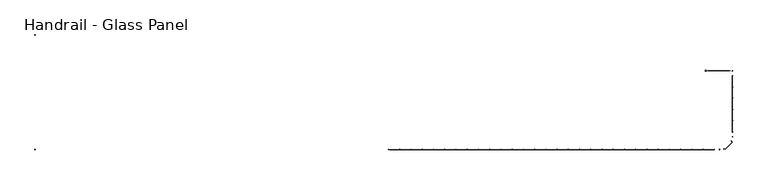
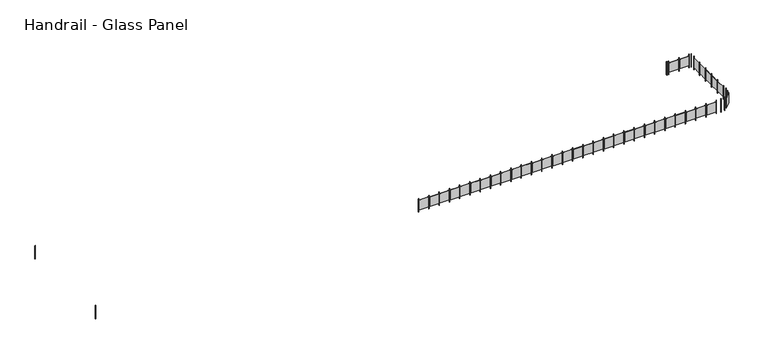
"""IFC4 building model written with IfcOpenShell, lengths in millimetres: railing geometry, Handrail - Glass Panel."""

from ifc_helpers import new_model, si_unit, point, frame, frame_2d, origin, place, context, project, spatial, polyline, circle_curve, trimmed, segment, composite_curve, outline, extrude, source, transform, mapped, element, save


def handrail_glass_panel_71ff9b3e(model_context):
    return source(origin(), model_context, "Body", "SweptSolid", [
        extrude(outline(polyline([(11509.6384101, -15937.6898653), (11509.6384101, -15956.7398653), (11490.5884101, -15956.7398653), (11490.5884101, -15937.6898653), (11509.6384101, -15937.6898653)])), frame((0.0, 0.0, 11850.0), z_axis=(0.0, 0.0, 1.0), x_axis=(1.0, 0.0, 0.0)), (0.0, 0.0, 1.0), 863.6),
        extrude(outline(polyline([(12097.0134101, -15953.5648653), (11538.2134101, -15953.5648653), (11538.2134101, -15947.2148653), (12097.0134101, -15947.2148653), (12097.0134101, -15953.5648653)])), frame((0.0, 0.0, 11977.0), z_axis=(0.0, 0.0, 1.0), x_axis=(1.0, 0.0, 0.0)), (0.0, 0.0, 1.0), 635.0),
        extrude(outline(polyline([(12144.6384101, -15937.6898653), (12144.6384101, -15956.7398653), (12125.5884101, -15956.7398653), (12125.5884101, -15937.6898653), (12144.6384101, -15937.6898653)])), frame((0.0, 0.0, 11850.0), z_axis=(0.0, 0.0, 1.0), x_axis=(1.0, 0.0, 0.0)), (0.0, 0.0, 1.0), 863.6),
        extrude(outline(polyline([(12732.0134101, -15953.5648653), (12173.2134101, -15953.5648653), (12173.2134101, -15947.2148653), (12732.0134101, -15947.2148653), (12732.0134101, -15953.5648653)])), frame((0.0, 0.0, 11977.0), z_axis=(0.0, 0.0, 1.0), x_axis=(1.0, 0.0, 0.0)), (0.0, 0.0, 1.0), 635.0),
        extrude(outline(polyline([(12779.6384101, -15937.6898653), (12779.6384101, -15956.7398653), (12760.5884101, -15956.7398653), (12760.5884101, -15937.6898653), (12779.6384101, -15937.6898653)])), frame((0.0, 0.0, 11850.0), z_axis=(0.0, 0.0, 1.0), x_axis=(1.0, 0.0, 0.0)), (0.0, 0.0, 1.0), 863.6),
        extrude(outline(polyline([(13367.0134101, -15953.5648653), (12808.2134101, -15953.5648653), (12808.2134101, -15947.2148653), (13367.0134101, -15947.2148653), (13367.0134101, -15953.5648653)])), frame((0.0, 0.0, 11977.0), z_axis=(0.0, 0.0, 1.0), x_axis=(1.0, 0.0, 0.0)), (0.0, 0.0, 1.0), 635.0),
        extrude(outline(polyline([(13414.6384101, -15937.6898653), (13414.6384101, -15956.7398653), (13395.5884101, -15956.7398653), (13395.5884101, -15937.6898653), (13414.6384101, -15937.6898653)])), frame((0.0, 0.0, 11850.0), z_axis=(0.0, 0.0, 1.0), x_axis=(1.0, 0.0, 0.0)), (0.0, 0.0, 1.0), 863.6),
        extrude(outline(polyline([(14002.0134101, -15953.5648653), (13443.2134101, -15953.5648653), (13443.2134101, -15947.2148653), (14002.0134101, -15947.2148653), (14002.0134101, -15953.5648653)])), frame((0.0, 0.0, 11977.0), z_axis=(0.0, 0.0, 1.0), x_axis=(1.0, 0.0, 0.0)), (0.0, 0.0, 1.0), 635.0),
        extrude(outline(polyline([(14049.6384101, -15937.6898653), (14049.6384101, -15956.7398653), (14030.5884101, -15956.7398653), (14030.5884101, -15937.6898653), (14049.6384101, -15937.6898653)])), frame((0.0, 0.0, 11850.0), z_axis=(0.0, 0.0, 1.0), x_axis=(1.0, 0.0, 0.0)), (0.0, 0.0, 1.0), 863.6),
        extrude(outline(polyline([(14637.0134101, -15953.5648653), (14078.2134101, -15953.5648653), (14078.2134101, -15947.2148653), (14637.0134101, -15947.2148653), (14637.0134101, -15953.5648653)])), frame((0.0, 0.0, 11977.0), z_axis=(0.0, 0.0, 1.0), x_axis=(1.0, 0.0, 0.0)), (0.0, 0.0, 1.0), 635.0),
        extrude(outline(polyline([(14684.6384101, -15937.6898653), (14684.6384101, -15956.7398653), (14665.5884101, -15956.7398653), (14665.5884101, -15937.6898653), (14684.6384101, -15937.6898653)])), frame((0.0, 0.0, 11850.0), z_axis=(0.0, 0.0, 1.0), x_axis=(1.0, 0.0, 0.0)), (0.0, 0.0, 1.0), 863.6),
        extrude(outline(polyline([(15272.0134101, -15953.5648653), (14713.2134101, -15953.5648653), (14713.2134101, -15947.2148653), (15272.0134101, -15947.2148653), (15272.0134101, -15953.5648653)])), frame((0.0, 0.0, 11977.0), z_axis=(0.0, 0.0, 1.0), x_axis=(1.0, 0.0, 0.0)), (0.0, 0.0, 1.0), 635.0),
        extrude(outline(polyline([(15319.6384101, -15937.6898653), (15319.6384101, -15956.7398653), (15300.5884101, -15956.7398653), (15300.5884101, -15937.6898653), (15319.6384101, -15937.6898653)])), frame((0.0, 0.0, 11850.0), z_axis=(0.0, 0.0, 1.0), x_axis=(1.0, 0.0, 0.0)), (0.0, 0.0, 1.0), 863.6),
        extrude(outline(polyline([(15907.0134101, -15953.5648653), (15348.2134101, -15953.5648653), (15348.2134101, -15947.2148653), (15907.0134101, -15947.2148653), (15907.0134101, -15953.5648653)])), frame((0.0, 0.0, 11977.0), z_axis=(0.0, 0.0, 1.0), x_axis=(1.0, 0.0, 0.0)), (0.0, 0.0, 1.0), 635.0),
        extrude(outline(polyline([(15954.6384101, -15937.6898653), (15954.6384101, -15956.7398653), (15935.5884101, -15956.7398653), (15935.5884101, -15937.6898653), (15954.6384101, -15937.6898653)])), frame((0.0, 0.0, 11850.0), z_axis=(0.0, 0.0, 1.0), x_axis=(1.0, 0.0, 0.0)), (0.0, 0.0, 1.0), 863.6),
        extrude(outline(polyline([(16542.0134101, -15953.5648653), (15983.2134101, -15953.5648653), (15983.2134101, -15947.2148653), (16542.0134101, -15947.2148653), (16542.0134101, -15953.5648653)])), frame((0.0, 0.0, 11977.0), z_axis=(0.0, 0.0, 1.0), x_axis=(1.0, 0.0, 0.0)), (0.0, 0.0, 1.0), 635.0),
        extrude(outline(polyline([(16589.6384101, -15937.6898653), (16589.6384101, -15956.7398653), (16570.5884101, -15956.7398653), (16570.5884101, -15937.6898653), (16589.6384101, -15937.6898653)])), frame((0.0, 0.0, 11850.0), z_axis=(0.0, 0.0, 1.0), x_axis=(1.0, 0.0, 0.0)), (0.0, 0.0, 1.0), 863.6),
        extrude(outline(polyline([(17177.0134101, -15953.5648653), (16618.2134101, -15953.5648653), (16618.2134101, -15947.2148653), (17177.0134101, -15947.2148653), (17177.0134101, -15953.5648653)])), frame((0.0, 0.0, 11977.0), z_axis=(0.0, 0.0, 1.0), x_axis=(1.0, 0.0, 0.0)), (0.0, 0.0, 1.0), 635.0),
        extrude(outline(polyline([(17224.6384101, -15937.6898653), (17224.6384101, -15956.7398653), (17205.5884101, -15956.7398653), (17205.5884101, -15937.6898653), (17224.6384101, -15937.6898653)])), frame((0.0, 0.0, 11850.0), z_axis=(0.0, 0.0, 1.0), x_axis=(1.0, 0.0, 0.0)), (0.0, 0.0, 1.0), 863.6),
        extrude(outline(polyline([(17812.0134101, -15953.5648653), (17253.2134101, -15953.5648653), (17253.2134101, -15947.2148653), (17812.0134101, -15947.2148653), (17812.0134101, -15953.5648653)])), frame((0.0, 0.0, 11977.0), z_axis=(0.0, 0.0, 1.0), x_axis=(1.0, 0.0, 0.0)), (0.0, 0.0, 1.0), 635.0),
        extrude(outline(polyline([(17859.6384101, -15937.6898653), (17859.6384101, -15956.7398653), (17840.5884101, -15956.7398653), (17840.5884101, -15937.6898653), (17859.6384101, -15937.6898653)])), frame((0.0, 0.0, 11850.0), z_axis=(0.0, 0.0, 1.0), x_axis=(1.0, 0.0, 0.0)), (0.0, 0.0, 1.0), 863.6),
        extrude(outline(polyline([(18447.0134101, -15953.5648653), (17888.2134101, -15953.5648653), (17888.2134101, -15947.2148653), (18447.0134101, -15947.2148653), (18447.0134101, -15953.5648653)])), frame((0.0, 0.0, 11977.0), z_axis=(0.0, 0.0, 1.0), x_axis=(1.0, 0.0, 0.0)), (0.0, 0.0, 1.0), 635.0),
        extrude(outline(polyline([(18494.6384101, -15937.6898653), (18494.6384101, -15956.7398653), (18475.5884101, -15956.7398653), (18475.5884101, -15937.6898653), (18494.6384101, -15937.6898653)])), frame((0.0, 0.0, 11850.0), z_axis=(0.0, 0.0, 1.0), x_axis=(1.0, 0.0, 0.0)), (0.0, 0.0, 1.0), 863.6),
        extrude(outline(polyline([(19082.0134101, -15953.5648653), (18523.2134101, -15953.5648653), (18523.2134101, -15947.2148653), (19082.0134101, -15947.2148653), (19082.0134101, -15953.5648653)])), frame((0.0, 0.0, 11977.0), z_axis=(0.0, 0.0, 1.0), x_axis=(1.0, 0.0, 0.0)), (0.0, 0.0, 1.0), 635.0),
        extrude(outline(polyline([(19129.6384101, -15937.6898653), (19129.6384101, -15956.7398653), (19110.5884101, -15956.7398653), (19110.5884101, -15937.6898653), (19129.6384101, -15937.6898653)])), frame((0.0, 0.0, 11850.0), z_axis=(0.0, 0.0, 1.0), x_axis=(1.0, 0.0, 0.0)), (0.0, 0.0, 1.0), 863.6),
        extrude(outline(polyline([(19717.0134101, -15953.5648653), (19158.2134101, -15953.5648653), (19158.2134101, -15947.2148653), (19717.0134101, -15947.2148653), (19717.0134101, -15953.5648653)])), frame((0.0, 0.0, 11977.0), z_axis=(0.0, 0.0, 1.0), x_axis=(1.0, 0.0, 0.0)), (0.0, 0.0, 1.0), 635.0),
        extrude(outline(polyline([(19764.6384101, -15937.6898653), (19764.6384101, -15956.7398653), (19745.5884101, -15956.7398653), (19745.5884101, -15937.6898653), (19764.6384101, -15937.6898653)])), frame((0.0, 0.0, 11850.0), z_axis=(0.0, 0.0, 1.0), x_axis=(1.0, 0.0, 0.0)), (0.0, 0.0, 1.0), 863.6),
        extrude(outline(polyline([(20352.0134101, -15953.5648653), (19793.2134101, -15953.5648653), (19793.2134101, -15947.2148653), (20352.0134101, -15947.2148653), (20352.0134101, -15953.5648653)])), frame((0.0, 0.0, 11977.0), z_axis=(0.0, 0.0, 1.0), x_axis=(1.0, 0.0, 0.0)), (0.0, 0.0, 1.0), 635.0),
        extrude(outline(polyline([(20399.6384101, -15937.6898653), (20399.6384101, -15956.7398653), (20380.5884101, -15956.7398653), (20380.5884101, -15937.6898653), (20399.6384101, -15937.6898653)])), frame((0.0, 0.0, 11850.0), z_axis=(0.0, 0.0, 1.0), x_axis=(1.0, 0.0, 0.0)), (0.0, 0.0, 1.0), 863.6),
        extrude(outline(polyline([(20987.0134101, -15953.5648653), (20428.2134101, -15953.5648653), (20428.2134101, -15947.2148653), (20987.0134101, -15947.2148653), (20987.0134101, -15953.5648653)])), frame((0.0, 0.0, 11977.0), z_axis=(0.0, 0.0, 1.0), x_axis=(1.0, 0.0, 0.0)), (0.0, 0.0, 1.0), 635.0),
        extrude(outline(polyline([(21034.6384101, -15937.6898653), (21034.6384101, -15956.7398653), (21015.5884101, -15956.7398653), (21015.5884101, -15937.6898653), (21034.6384101, -15937.6898653)])), frame((0.0, 0.0, 11850.0), z_axis=(0.0, 0.0, 1.0), x_axis=(1.0, 0.0, 0.0)), (0.0, 0.0, 1.0), 863.6),
        extrude(outline(polyline([(21622.0134101, -15953.5648653), (21063.2134101, -15953.5648653), (21063.2134101, -15947.2148653), (21622.0134101, -15947.2148653), (21622.0134101, -15953.5648653)])), frame((0.0, 0.0, 11977.0), z_axis=(0.0, 0.0, 1.0), x_axis=(1.0, 0.0, 0.0)), (0.0, 0.0, 1.0), 635.0),
        extrude(outline(polyline([(21669.6384101, -15937.6898653), (21669.6384101, -15956.7398653), (21650.5884101, -15956.7398653), (21650.5884101, -15937.6898653), (21669.6384101, -15937.6898653)])), frame((0.0, 0.0, 11850.0), z_axis=(0.0, 0.0, 1.0), x_axis=(1.0, 0.0, 0.0)), (0.0, 0.0, 1.0), 863.6),
        extrude(outline(polyline([(22257.0134101, -15953.5648653), (21698.2134101, -15953.5648653), (21698.2134101, -15947.2148653), (22257.0134101, -15947.2148653), (22257.0134101, -15953.5648653)])), frame((0.0, 0.0, 11977.0), z_axis=(0.0, 0.0, 1.0), x_axis=(1.0, 0.0, 0.0)), (0.0, 0.0, 1.0), 635.0),
        extrude(outline(polyline([(22304.6384101, -15937.6898653), (22304.6384101, -15956.7398653), (22285.5884101, -15956.7398653), (22285.5884101, -15937.6898653), (22304.6384101, -15937.6898653)])), frame((0.0, 0.0, 11850.0), z_axis=(0.0, 0.0, 1.0), x_axis=(1.0, 0.0, 0.0)), (0.0, 0.0, 1.0), 863.6),
        extrude(outline(polyline([(22892.0134101, -15953.5648653), (22333.2134101, -15953.5648653), (22333.2134101, -15947.2148653), (22892.0134101, -15947.2148653), (22892.0134101, -15953.5648653)])), frame((0.0, 0.0, 11977.0), z_axis=(0.0, 0.0, 1.0), x_axis=(1.0, 0.0, 0.0)), (0.0, 0.0, 1.0), 635.0),
        extrude(outline(polyline([(22939.6384101, -15937.6898653), (22939.6384101, -15956.7398653), (22920.5884101, -15956.7398653), (22920.5884101, -15937.6898653), (22939.6384101, -15937.6898653)])), frame((0.0, 0.0, 11850.0), z_axis=(0.0, 0.0, 1.0), x_axis=(1.0, 0.0, 0.0)), (0.0, 0.0, 1.0), 863.6),
        extrude(outline(polyline([(23527.0134101, -15953.5648653), (22968.2134101, -15953.5648653), (22968.2134101, -15947.2148653), (23527.0134101, -15947.2148653), (23527.0134101, -15953.5648653)])), frame((0.0, 0.0, 11977.0), z_axis=(0.0, 0.0, 1.0), x_axis=(1.0, 0.0, 0.0)), (0.0, 0.0, 1.0), 635.0),
        extrude(outline(polyline([(23574.6384101, -15937.6898653), (23574.6384101, -15956.7398653), (23555.5884101, -15956.7398653), (23555.5884101, -15937.6898653), (23574.6384101, -15937.6898653)])), frame((0.0, 0.0, 11850.0), z_axis=(0.0, 0.0, 1.0), x_axis=(1.0, 0.0, 0.0)), (0.0, 0.0, 1.0), 863.6),
        extrude(outline(polyline([(24162.0134101, -15953.5648653), (23603.2134101, -15953.5648653), (23603.2134101, -15947.2148653), (24162.0134101, -15947.2148653), (24162.0134101, -15953.5648653)])), frame((0.0, 0.0, 11977.0), z_axis=(0.0, 0.0, 1.0), x_axis=(1.0, 0.0, 0.0)), (0.0, 0.0, 1.0), 635.0),
        extrude(outline(polyline([(24209.6384101, -15937.6898653), (24209.6384101, -15956.7398653), (24190.5884101, -15956.7398653), (24190.5884101, -15937.6898653), (24209.6384101, -15937.6898653)])), frame((0.0, 0.0, 11850.0), z_axis=(0.0, 0.0, 1.0), x_axis=(1.0, 0.0, 0.0)), (0.0, 0.0, 1.0), 863.6),
        extrude(outline(polyline([(24797.0134101, -15953.5648653), (24238.2134101, -15953.5648653), (24238.2134101, -15947.2148653), (24797.0134101, -15947.2148653), (24797.0134101, -15953.5648653)])), frame((0.0, 0.0, 11977.0), z_axis=(0.0, 0.0, 1.0), x_axis=(1.0, 0.0, 0.0)), (0.0, 0.0, 1.0), 635.0),
        extrude(outline(polyline([(24844.6384101, -15937.6898653), (24844.6384101, -15956.7398653), (24825.5884101, -15956.7398653), (24825.5884101, -15937.6898653), (24844.6384101, -15937.6898653)])), frame((0.0, 0.0, 11850.0), z_axis=(0.0, 0.0, 1.0), x_axis=(1.0, 0.0, 0.0)), (0.0, 0.0, 1.0), 863.6),
        extrude(outline(polyline([(25432.0134101, -15953.5648653), (24873.2134101, -15953.5648653), (24873.2134101, -15947.2148653), (25432.0134101, -15947.2148653), (25432.0134101, -15953.5648653)])), frame((0.0, 0.0, 11977.0), z_axis=(0.0, 0.0, 1.0), x_axis=(1.0, 0.0, 0.0)), (0.0, 0.0, 1.0), 635.0),
        extrude(outline(polyline([(25479.6384101, -15937.6898653), (25479.6384101, -15956.7398653), (25460.5884101, -15956.7398653), (25460.5884101, -15937.6898653), (25479.6384101, -15937.6898653)])), frame((0.0, 0.0, 11850.0), z_axis=(0.0, 0.0, 1.0), x_axis=(1.0, 0.0, 0.0)), (0.0, 0.0, 1.0), 863.6),
        extrude(outline(polyline([(26067.0134101, -15953.5648653), (25508.2134101, -15953.5648653), (25508.2134101, -15947.2148653), (26067.0134101, -15947.2148653), (26067.0134101, -15953.5648653)])), frame((0.0, 0.0, 11977.0), z_axis=(0.0, 0.0, 1.0), x_axis=(1.0, 0.0, 0.0)), (0.0, 0.0, 1.0), 635.0),
        extrude(outline(polyline([(26114.6384101, -15937.6898653), (26114.6384101, -15956.7398653), (26095.5884101, -15956.7398653), (26095.5884101, -15937.6898653), (26114.6384101, -15937.6898653)])), frame((0.0, 0.0, 11850.0), z_axis=(0.0, 0.0, 1.0), x_axis=(1.0, 0.0, 0.0)), (0.0, 0.0, 1.0), 863.6),
        extrude(outline(polyline([(26702.0134101, -15953.5648653), (26143.2134101, -15953.5648653), (26143.2134101, -15947.2148653), (26702.0134101, -15947.2148653), (26702.0134101, -15953.5648653)])), frame((0.0, 0.0, 11977.0), z_axis=(0.0, 0.0, 1.0), x_axis=(1.0, 0.0, 0.0)), (0.0, 0.0, 1.0), 635.0),
        extrude(outline(polyline([(26749.6384101, -15937.6898653), (26749.6384101, -15956.7398653), (26730.5884101, -15956.7398653), (26730.5884101, -15937.6898653), (26749.6384101, -15937.6898653)])), frame((0.0, 0.0, 11850.0), z_axis=(0.0, 0.0, 1.0), x_axis=(1.0, 0.0, 0.0)), (0.0, 0.0, 1.0), 863.6),
        extrude(outline(polyline([(27337.0134101, -15953.5648653), (26778.2134101, -15953.5648653), (26778.2134101, -15947.2148653), (27337.0134101, -15947.2148653), (27337.0134101, -15953.5648653)])), frame((0.0, 0.0, 11977.0), z_axis=(0.0, 0.0, 1.0), x_axis=(1.0, 0.0, 0.0)), (0.0, 0.0, 1.0), 635.0),
        extrude(outline(polyline([(27384.6384101, -15937.6898653), (27384.6384101, -15956.7398653), (27365.5884101, -15956.7398653), (27365.5884101, -15937.6898653), (27384.6384101, -15937.6898653)])), frame((0.0, 0.0, 11850.0), z_axis=(0.0, 0.0, 1.0), x_axis=(1.0, 0.0, 0.0)), (0.0, 0.0, 1.0), 863.6),
        extrude(outline(polyline([(27972.0134101, -15953.5648653), (27413.2134101, -15953.5648653), (27413.2134101, -15947.2148653), (27972.0134101, -15947.2148653), (27972.0134101, -15953.5648653)])), frame((0.0, 0.0, 11977.0), z_axis=(0.0, 0.0, 1.0), x_axis=(1.0, 0.0, 0.0)), (0.0, 0.0, 1.0), 635.0),
        extrude(outline(polyline([(28019.6384101, -15937.6898653), (28019.6384101, -15956.7398653), (28000.5884101, -15956.7398653), (28000.5884101, -15937.6898653), (28019.6384101, -15937.6898653)])), frame((0.0, 0.0, 11850.0), z_axis=(0.0, 0.0, 1.0), x_axis=(1.0, 0.0, 0.0)), (0.0, 0.0, 1.0), 863.6),
        extrude(outline(polyline([(28607.0134101, -15953.5648653), (28048.2134101, -15953.5648653), (28048.2134101, -15947.2148653), (28607.0134101, -15947.2148653), (28607.0134101, -15953.5648653)])), frame((0.0, 0.0, 11977.0), z_axis=(0.0, 0.0, 1.0), x_axis=(1.0, 0.0, 0.0)), (0.0, 0.0, 1.0), 635.0),
        extrude(outline(polyline([(28654.6384101, -15937.6898653), (28654.6384101, -15956.7398653), (28635.5884101, -15956.7398653), (28635.5884101, -15937.6898653), (28654.6384101, -15937.6898653)])), frame((0.0, 0.0, 11850.0), z_axis=(0.0, 0.0, 1.0), x_axis=(1.0, 0.0, 0.0)), (0.0, 0.0, 1.0), 863.6),
        extrude(outline(polyline([(29242.0134101, -15953.5648653), (28683.2134101, -15953.5648653), (28683.2134101, -15947.2148653), (29242.0134101, -15947.2148653), (29242.0134101, -15953.5648653)])), frame((0.0, 0.0, 11977.0), z_axis=(0.0, 0.0, 1.0), x_axis=(1.0, 0.0, 0.0)), (0.0, 0.0, 1.0), 635.0),
        extrude(outline(polyline([(29289.6384101, -15937.6898653), (29289.6384101, -15956.7398653), (29270.5884101, -15956.7398653), (29270.5884101, -15937.6898653), (29289.6384101, -15937.6898653)])), frame((0.0, 0.0, 11850.0), z_axis=(0.0, 0.0, 1.0), x_axis=(1.0, 0.0, 0.0)), (0.0, 0.0, 1.0), 863.6),
        extrude(outline(polyline([(29877.0134101, -15953.5648653), (29318.2134101, -15953.5648653), (29318.2134101, -15947.2148653), (29877.0134101, -15947.2148653), (29877.0134101, -15953.5648653)])), frame((0.0, 0.0, 11977.0), z_axis=(0.0, 0.0, 1.0), x_axis=(1.0, 0.0, 0.0)), (0.0, 0.0, 1.0), 635.0),
        extrude(outline(polyline([(29924.6384101, -15937.6898653), (29924.6384101, -15956.7398653), (29905.5884101, -15956.7398653), (29905.5884101, -15937.6898653), (29924.6384101, -15937.6898653)])), frame((0.0, 0.0, 11850.0), z_axis=(0.0, 0.0, 1.0), x_axis=(1.0, 0.0, 0.0)), (0.0, 0.0, 1.0), 863.6),
        extrude(outline(polyline([(30464.702897, -15891.773289), (30471.1854231, -15909.6863947), (30453.2723175, -15916.1689208), (30446.7897913, -15898.2558152), (30464.702897, -15891.773289)])), frame((0.0, 0.0, 11850.0), z_axis=(0.0, 0.0, 1.0), x_axis=(1.0, 0.0, 0.0)), (0.0, 0.0, 1.0), 863.6),
        extrude(outline(polyline([(30926.8387465, -15541.9089323), (30531.7074772, -15937.0402016), (30527.2173491, -15932.5500736), (30922.3486184, -15537.4188043), (30926.8387465, -15541.9089323)])), frame((0.0, 0.0, 11977.0), z_axis=(0.0, 0.0, 1.0), x_axis=(1.0, 0.0, 0.0)), (0.0, 0.0, 1.0), 635.0),
        extrude(outline(polyline([(30888.05436, -15456.9912465), (30905.9674657, -15463.4737726), (30899.4849395, -15481.3868783), (30881.5718339, -15474.9043521), (30888.05436, -15456.9912465)])), frame((0.0, 0.0, 11850.0), z_axis=(0.0, 0.0, 1.0), x_axis=(1.0, 0.0, 0.0)), (0.0, 0.0, 1.0), 863.6),
        extrude(outline(polyline([(30927.4884101, -14938.2898653), (30946.5384101, -14938.2898653), (30946.5384101, -14957.3398653), (30927.4884101, -14957.3398653), (30927.4884101, -14938.2898653)])), frame((0.0, 0.0, 11850.0), z_axis=(0.0, 0.0, 1.0), x_axis=(1.0, 0.0, 0.0)), (0.0, 0.0, 1.0), 863.6),
        extrude(outline(polyline([(30943.3634101, -14350.9148653), (30943.3634101, -14909.7148653), (30937.0134101, -14909.7148653), (30937.0134101, -14350.9148653), (30943.3634101, -14350.9148653)])), frame((0.0, 0.0, 11977.0), z_axis=(0.0, 0.0, 1.0), x_axis=(1.0, 0.0, 0.0)), (0.0, 0.0, 1.0), 635.0),
        extrude(outline(polyline([(30927.4884101, -14303.2898653), (30946.5384101, -14303.2898653), (30946.5384101, -14322.3398653), (30927.4884101, -14322.3398653), (30927.4884101, -14303.2898653)])), frame((0.0, 0.0, 11850.0), z_axis=(0.0, 0.0, 1.0), x_axis=(1.0, 0.0, 0.0)), (0.0, 0.0, 1.0), 863.6),
        extrude(outline(polyline([(30943.3634101, -13715.9148653), (30943.3634101, -14274.7148653), (30937.0134101, -14274.7148653), (30937.0134101, -13715.9148653), (30943.3634101, -13715.9148653)])), frame((0.0, 0.0, 11977.0), z_axis=(0.0, 0.0, 1.0), x_axis=(1.0, 0.0, 0.0)), (0.0, 0.0, 1.0), 635.0),
        extrude(outline(polyline([(30927.4884101, -13668.2898653), (30946.5384101, -13668.2898653), (30946.5384101, -13687.3398653), (30927.4884101, -13687.3398653), (30927.4884101, -13668.2898653)])), frame((0.0, 0.0, 11850.0), z_axis=(0.0, 0.0, 1.0), x_axis=(1.0, 0.0, 0.0)), (0.0, 0.0, 1.0), 863.6),
        extrude(outline(polyline([(30943.3634101, -13080.9148653), (30943.3634101, -13639.7148653), (30937.0134101, -13639.7148653), (30937.0134101, -13080.9148653), (30943.3634101, -13080.9148653)])), frame((0.0, 0.0, 11977.0), z_axis=(0.0, 0.0, 1.0), x_axis=(1.0, 0.0, 0.0)), (0.0, 0.0, 1.0), 635.0),
        extrude(outline(polyline([(30927.4884101, -13033.2898653), (30946.5384101, -13033.2898653), (30946.5384101, -13052.3398653), (30927.4884101, -13052.3398653), (30927.4884101, -13033.2898653)])), frame((0.0, 0.0, 11850.0), z_axis=(0.0, 0.0, 1.0), x_axis=(1.0, 0.0, 0.0)), (0.0, 0.0, 1.0), 863.6),
        extrude(outline(polyline([(30943.3634101, -12445.9148653), (30943.3634101, -13004.7148653), (30937.0134101, -13004.7148653), (30937.0134101, -12445.9148653), (30943.3634101, -12445.9148653)])), frame((0.0, 0.0, 11977.0), z_axis=(0.0, 0.0, 1.0), x_axis=(1.0, 0.0, 0.0)), (0.0, 0.0, 1.0), 635.0),
        extrude(outline(polyline([(30927.4884101, -12398.2898653), (30946.5384101, -12398.2898653), (30946.5384101, -12417.3398653), (30927.4884101, -12417.3398653), (30927.4884101, -12398.2898653)])), frame((0.0, 0.0, 11850.0), z_axis=(0.0, 0.0, 1.0), x_axis=(1.0, 0.0, 0.0)), (0.0, 0.0, 1.0), 863.6),
        extrude(outline(polyline([(30943.3634101, -11810.9148653), (30943.3634101, -12369.7148653), (30937.0134101, -12369.7148653), (30937.0134101, -11810.9148653), (30943.3634101, -11810.9148653)])), frame((0.0, 0.0, 11977.0), z_axis=(0.0, 0.0, 1.0), x_axis=(1.0, 0.0, 0.0)), (0.0, 0.0, 1.0), 635.0),
        extrude(outline(polyline([(30927.4884101, -11763.2898653), (30946.5384101, -11763.2898653), (30946.5384101, -11782.3398653), (30927.4884101, -11782.3398653), (30927.4884101, -11763.2898653)])), frame((0.0, 0.0, 11850.0), z_axis=(0.0, 0.0, 1.0), x_axis=(1.0, 0.0, 0.0)), (0.0, 0.0, 1.0), 863.6),
        extrude(outline(polyline([(30803.4158175, -11507.5398653), (30803.4158175, -11488.4898653), (30822.4658175, -11488.4898653), (30822.4658175, -11507.5398653), (30803.4158175, -11507.5398653)])), frame((0.0, 0.0, 11850.0), z_axis=(0.0, 0.0, 1.0), x_axis=(1.0, 0.0, 0.0)), (0.0, 0.0, 1.0), 863.6),
        extrude(outline(polyline([(30216.0408175, -11491.6648653), (30774.8408175, -11491.6648653), (30774.8408175, -11498.0148653), (30216.0408175, -11498.0148653), (30216.0408175, -11491.6648653)])), frame((0.0, 0.0, 11977.0), z_axis=(0.0, 0.0, 1.0), x_axis=(1.0, 0.0, 0.0)), (0.0, 0.0, 1.0), 635.0),
        extrude(outline(polyline([(30168.4158175, -11507.5398653), (30168.4158175, -11488.4898653), (30187.4658175, -11488.4898653), (30187.4658175, -11507.5398653), (30168.4158175, -11507.5398653)])), frame((0.0, 0.0, 11850.0), z_axis=(0.0, 0.0, 1.0), x_axis=(1.0, 0.0, 0.0)), (0.0, 0.0, 1.0), 863.6),
        extrude(outline(polyline([(29581.0408175, -11491.6648653), (30139.8408175, -11491.6648653), (30139.8408175, -11498.0148653), (29581.0408175, -11498.0148653), (29581.0408175, -11491.6648653)])), frame((0.0, 0.0, 11977.0), z_axis=(0.0, 0.0, 1.0), x_axis=(1.0, 0.0, 0.0)), (0.0, 0.0, 1.0), 635.0),
        extrude(outline(polyline([(29533.4158175, -11507.5398653), (29533.4158175, -11488.4898653), (29552.4658175, -11488.4898653), (29552.4658175, -11507.5398653), (29533.4158175, -11507.5398653)])), frame((0.0, 0.0, 11850.0), z_axis=(0.0, 0.0, 1.0), x_axis=(1.0, 0.0, 0.0)), (0.0, 0.0, 1.0), 863.6),
        extrude(outline(composite_curve([segment(trimmed(circle_curve(frame_2d((-8482.1865899, -15947.2148653)), 12.7), [point((-8482.1865899, -15959.9148653))], [point((-8482.1865899, -15934.5148653))], False, "CARTESIAN"), True, "CONTINUOUS"), segment(trimmed(circle_curve(frame_2d((-8482.1865899, -15947.2148653)), 12.7), [point((-8482.1865899, -15934.5148653))], [point((-8482.1865899, -15959.9148653))], False, "CARTESIAN"), True, "CONTINUOUS")], self_intersect=False)), frame((0.0, 0.0, 11850.0), z_axis=(0.0, 0.0, 1.0), x_axis=(1.0, 0.0, 0.0)), (0.0, 0.0, 1.0), 863.6),
        extrude(outline(composite_curve([segment(trimmed(circle_curve(frame_2d((30212.4134101, -15947.2148653)), 12.7), [point((30212.4134101, -15959.9148653))], [point((30212.4134101, -15934.5148653))], False, "CARTESIAN"), True, "CONTINUOUS"), segment(trimmed(circle_curve(frame_2d((30212.4134101, -15947.2148653)), 12.7), [point((30212.4134101, -15934.5148653))], [point((30212.4134101, -15959.9148653))], False, "CARTESIAN"), True, "CONTINUOUS")], self_intersect=False)), frame((0.0, 0.0, 11850.0), z_axis=(0.0, 0.0, 1.0), x_axis=(1.0, 0.0, 0.0)), (0.0, 0.0, 1.0), 863.6),
        extrude(outline(composite_curve([segment(trimmed(circle_curve(frame_2d((30937.0134101, -15222.6148653)), 12.7), [point((30949.7134101, -15222.6148653))], [point((30924.3134101, -15222.6148653))], False, "CARTESIAN"), True, "CONTINUOUS"), segment(trimmed(circle_curve(frame_2d((30937.0134101, -15222.6148653)), 12.7), [point((30924.3134101, -15222.6148653))], [point((30949.7134101, -15222.6148653))], False, "CARTESIAN"), True, "CONTINUOUS")], self_intersect=False)), frame((0.0, 0.0, 11850.0), z_axis=(0.0, 0.0, 1.0), x_axis=(1.0, 0.0, 0.0)), (0.0, 0.0, 1.0), 863.6),
        extrude(outline(composite_curve([segment(trimmed(circle_curve(frame_2d((30937.0134101, -11498.0148653)), 12.7), [point((30937.0134101, -11485.3148653))], [point((30937.0134101, -11510.7148653))], False, "CARTESIAN"), True, "CONTINUOUS"), segment(trimmed(circle_curve(frame_2d((30937.0134101, -11498.0148653)), 12.7), [point((30937.0134101, -11510.7148653))], [point((30937.0134101, -11485.3148653))], False, "CARTESIAN"), True, "CONTINUOUS")], self_intersect=False)), frame((0.0, 0.0, 11850.0), z_axis=(0.0, 0.0, 1.0), x_axis=(1.0, 0.0, 0.0)), (0.0, 0.0, 1.0), 863.6),
        extrude(outline(composite_curve([segment(trimmed(circle_curve(frame_2d((-8482.1865899, -9482.1398653)), 12.7), [point((-8494.8865899, -9482.1398653))], [point((-8469.4865899, -9482.1398653))], False, "CARTESIAN"), True, "CONTINUOUS"), segment(trimmed(circle_curve(frame_2d((-8482.1865899, -9482.1398653)), 12.7), [point((-8469.4865899, -9482.1398653))], [point((-8494.8865899, -9482.1398653))], False, "CARTESIAN"), True, "CONTINUOUS")], self_intersect=False)), frame((0.0, 0.0, 11850.0), z_axis=(0.0, 0.0, 1.0), x_axis=(1.0, 0.0, 0.0)), (0.0, 0.0, 1.0), 863.6),
        extrude(outline(polyline([(29409.3432249, -11517.0648653), (29409.3432249, -11478.9648653), (29447.4432249, -11478.9648653), (29447.4432249, -11517.0648653), (29409.3432249, -11517.0648653)])), frame((0.0, 0.0, 11850.0), z_axis=(0.0, 0.0, 1.0), x_axis=(1.0, 0.0, 0.0)), (0.0, 0.0, 1.0), 863.6),
    ])


if __name__ == "__main__":
    model = new_model("IFC4")
    model_context = context("Model", 3, world=origin())
    ifc_project = project(units=[si_unit("LENGTHUNIT", "METRE", prefix="MILLI")], contexts=[model_context])
    site = spatial("IfcSite", under=ifc_project)
    building = spatial("IfcBuilding", under=site)
    placement = place(None, origin())
    handrail_glass_panel_shape = handrail_glass_panel_71ff9b3e(model_context)
    element("IfcRailing", 1, ObjectType="Handrail - Glass Panel", at=placement, inside=building, context=model_context, shape_type="MappedRepresentation", body=[
        mapped(handrail_glass_panel_shape, transform((0.0, 0.0, 0.0), x_axis=(1.0, 0.0, 0.0), y_axis=(0.0, 1.0, 0.0), z_axis=(0.0, 0.0, 1.0))),
    ])
    save(model, "model.ifc")
